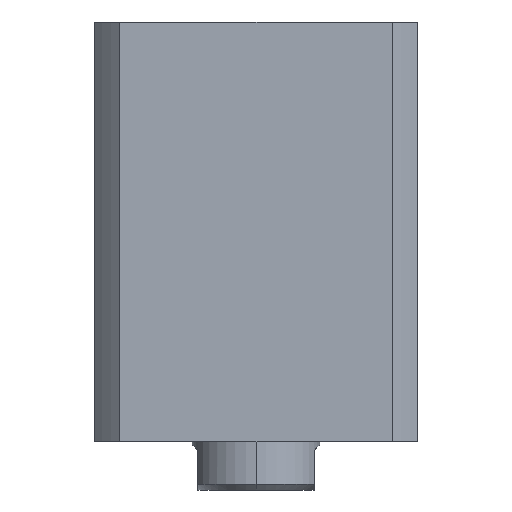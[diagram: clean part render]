
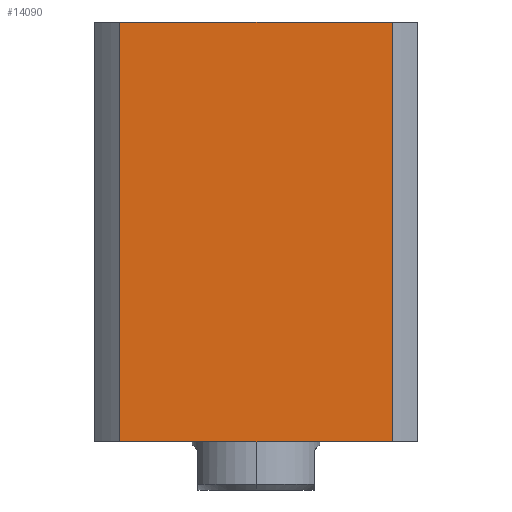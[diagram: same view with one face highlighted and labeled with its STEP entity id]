
A CAD part, front view. The second image highlights one B-rep face of the part: STEP entity #14090.
In plain terms, the highlighted planar face has unit normal (0, -1, 0) as drawn and (-1, 0, 0) by its records, which use the part's own axes.
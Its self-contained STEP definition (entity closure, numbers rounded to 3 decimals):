
#871 = CARTESIAN_POINT ( 'NONE',  ( -57., 47.971, 148. ) ) ;
#1044 = VECTOR ( 'NONE', #4165, 1000. ) ;
#2316 = LINE ( 'NONE', #6796, #14506 ) ;
#2348 = CARTESIAN_POINT ( 'NONE',  ( -57., 57., 0. ) ) ;
#2403 = CARTESIAN_POINT ( 'NONE',  ( -57., 47.971, 0. ) ) ;
#2929 = EDGE_LOOP ( 'NONE', ( #7812, #12959, #9364, #3663 ) ) ;
#2969 = EDGE_CURVE ( 'NONE', #3197, #9222, #2316, .T. ) ;
#2977 = CARTESIAN_POINT ( 'NONE',  ( -57., 47.971, -152. ) ) ;
#3197 = VERTEX_POINT ( 'NONE', #14150 ) ;
#3506 = DIRECTION ( 'NONE',  ( 1., 0., 0. ) ) ;
#3663 = ORIENTED_EDGE ( 'NONE', *, *, #4460, .F. ) ;
#3853 = EDGE_CURVE ( 'NONE', #10693, #5697, #4162, .T. ) ;
#4162 = LINE ( 'NONE', #2977, #1044 ) ;
#4165 = DIRECTION ( 'NONE',  ( 0., 0., 1. ) ) ;
#4460 = EDGE_CURVE ( 'NONE', #5697, #3197, #14114, .T. ) ;
#5019 = DIRECTION ( 'NONE',  ( 0., -1., 0. ) ) ;
#5610 = FACE_OUTER_BOUND ( 'NONE', #2929, .T. ) ;
#5697 = VERTEX_POINT ( 'NONE', #871 ) ;
#6796 = CARTESIAN_POINT ( 'NONE',  ( -57., -47.971, -152. ) ) ;
#7812 = ORIENTED_EDGE ( 'NONE', *, *, #3853, .F. ) ;
#9065 = AXIS2_PLACEMENT_3D ( 'NONE', #12703, #3506, #11750 ) ;
#9096 = VECTOR ( 'NONE', #12974, 1000. ) ;
#9222 = VERTEX_POINT ( 'NONE', #13937 ) ;
#9364 = ORIENTED_EDGE ( 'NONE', *, *, #2969, .F. ) ;
#9379 = PLANE ( 'NONE',  #9065 ) ;
#9654 = CARTESIAN_POINT ( 'NONE',  ( -57., 57., 148. ) ) ;
#10389 = DIRECTION ( 'NONE',  ( 0., 0., -1. ) ) ;
#10665 = EDGE_CURVE ( 'NONE', #10693, #9222, #12231, .T. ) ;
#10693 = VERTEX_POINT ( 'NONE', #2403 ) ;
#11750 = DIRECTION ( 'NONE',  ( 0., 1., 0. ) ) ;
#12231 = LINE ( 'NONE', #2348, #9096 ) ;
#12703 = CARTESIAN_POINT ( 'NONE',  ( -57., 57., 148. ) ) ;
#12959 = ORIENTED_EDGE ( 'NONE', *, *, #10665, .T. ) ;
#12974 = DIRECTION ( 'NONE',  ( 0., -1., 0. ) ) ;
#13760 = VECTOR ( 'NONE', #5019, 1000. ) ;
#13937 = CARTESIAN_POINT ( 'NONE',  ( -57., -47.971, 0. ) ) ;
#14090 = ADVANCED_FACE ( 'NONE', ( #5610 ), #9379, .F. ) ;
#14114 = LINE ( 'NONE', #9654, #13760 ) ;
#14150 = CARTESIAN_POINT ( 'NONE',  ( -57., -47.971, 148. ) ) ;
#14506 = VECTOR ( 'NONE', #10389, 1000. ) ;
